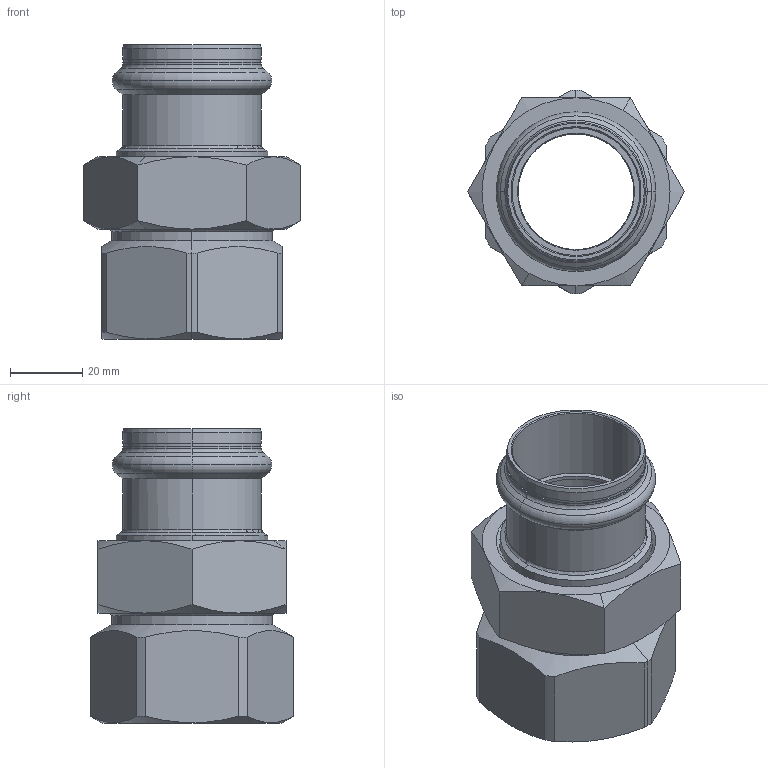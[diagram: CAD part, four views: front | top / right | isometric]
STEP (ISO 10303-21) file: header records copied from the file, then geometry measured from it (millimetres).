
FILE_DESCRIPTION(('CoCreate Modeling STEP Export'),'2;1');
FILE_NAME('8330GVW35114.stp','2013-03-05T13:21:43',(''),(''),'CoCreate Modeling STEP processor for AP214 (Solid Model)','CoCreate Modeling 17.00A 17-Jun-2010 (C) Parametric Technology GmbH','');
FILE_SCHEMA(('AUTOMOTIVE_DESIGN { 1 0 10303 214 1 1 1 1 }'));
Length unit declared in the file: millimetre
Products named in the file (4): DRAAD; MOER; Wartelpuntstuk_C-PR_35x3.1; 8330GVW35114
Assembly tree (3 placements, depth 2):
  8330GVW35114
    Wartelpuntstuk_C-PR_35x3.1
    MOER
    DRAAD
Bounding box: 60.04 x 56.2 x 81.5 mm (x, y, z)
Volume: 64505.6 mm3; surface area: 31877.5 mm2
Topology: 3 solids, 3 shells, 132 faces, 300 edges, 178 vertices
Faces by surface type: cone 52, cylinder 46, plane 22, torus 12
Entity records: 4863 total; most frequent: CARTESIAN_POINT 2318, ORIENTED_EDGE 600, DIRECTION 366, EDGE_CURVE 300, VERTEX_POINT 178, EDGE_LOOP 142, AXIS2_PLACEMENT_3D 134, FACE_OUTER_BOUND 132
